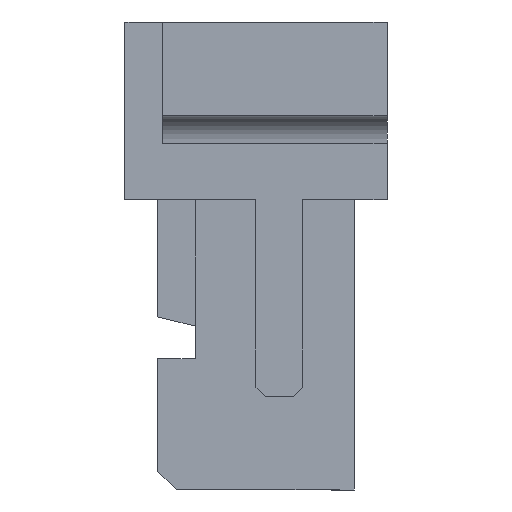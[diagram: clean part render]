
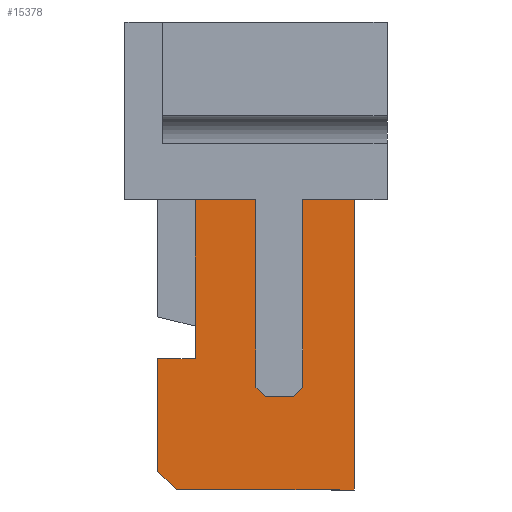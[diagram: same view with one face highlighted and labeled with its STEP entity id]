
A CAD part, left-side view. The second image highlights one B-rep face of the part: STEP entity #15378.
In plain terms, the highlighted planar face has unit normal (-1, 0, 0).
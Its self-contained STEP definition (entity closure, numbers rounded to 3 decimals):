
#308=CARTESIAN_POINT('Vertex',(-8.2,2.45,0.2)) ;
#324=CARTESIAN_POINT('Vertex',(-8.2,2.25,0.)) ;
#327=CARTESIAN_POINT('Line Origine',(-8.2,2.35,0.1)) ;
#562=CARTESIAN_POINT('Vertex',(-8.2,0.35,3.1)) ;
#597=CARTESIAN_POINT('Vertex',(-8.2,0.9,3.1)) ;
#600=CARTESIAN_POINT('Line Origine',(-8.2,0.625,3.1)) ;
#3274=CARTESIAN_POINT('Line Origine',(-8.2,0.9,2.1)) ;
#3278=CARTESIAN_POINT('Vertex',(-8.2,0.9,1.1)) ;
#7178=CARTESIAN_POINT('Line Origine',(-8.2,0.95,1.05)) ;
#7182=CARTESIAN_POINT('Vertex',(-8.2,1.,1.)) ;
#7204=CARTESIAN_POINT('Axis2P3D Location',(-8.2,2.8,1.)) ;
#7215=CARTESIAN_POINT('Vertex',(-8.2,2.05,3.1)) ;
#8029=CARTESIAN_POINT('Line Origine',(-8.2,1.15,1.)) ;
#8033=CARTESIAN_POINT('Vertex',(-8.2,1.3,1.)) ;
#8055=CARTESIAN_POINT('Line Origine',(-8.2,1.35,1.05)) ;
#8059=CARTESIAN_POINT('Vertex',(-8.2,1.4,1.1)) ;
#8081=CARTESIAN_POINT('Line Origine',(-8.2,1.4,2.1)) ;
#8085=CARTESIAN_POINT('Vertex',(-8.2,1.4,3.1)) ;
#10506=CARTESIAN_POINT('Vertex',(-8.2,2.05,1.4)) ;
#10511=CARTESIAN_POINT('Line Origine',(-8.2,2.05,1.575)) ;
#10515=CARTESIAN_POINT('Vertex',(-8.2,2.05,1.75)) ;
#10518=CARTESIAN_POINT('Line Origine',(-8.2,2.05,2.425)) ;
#12514=CARTESIAN_POINT('Line Origine',(-8.2,1.725,3.1)) ;
#15338=CARTESIAN_POINT('Line Origine',(-8.2,2.25,1.4)) ;
#15342=CARTESIAN_POINT('Vertex',(-8.2,2.45,1.4)) ;
#15345=CARTESIAN_POINT('Line Origine',(-8.2,2.45,0.8)) ;
#15350=CARTESIAN_POINT('Line Origine',(-8.2,1.3,0.)) ;
#15354=CARTESIAN_POINT('Vertex',(-8.2,0.35,0.)) ;
#15357=CARTESIAN_POINT('Line Origine',(-8.2,0.35,1.55)) ;
#328=DIRECTION('Vector Direction',(0.,0.707,0.707)) ;
#601=DIRECTION('Vector Direction',(0.,1.,0.)) ;
#3275=DIRECTION('Vector Direction',(0.,0.,-1.)) ;
#7179=DIRECTION('Vector Direction',(0.,0.707,-0.707)) ;
#7205=DIRECTION('Axis2P3D Direction',(-1.,0.,0.)) ;
#7206=DIRECTION('Axis2P3D XDirection',(-0.,0.,-1.)) ;
#8030=DIRECTION('Vector Direction',(0.,1.,0.)) ;
#8056=DIRECTION('Vector Direction',(0.,0.707,0.707)) ;
#8082=DIRECTION('Vector Direction',(0.,0.,1.)) ;
#10512=DIRECTION('Vector Direction',(0.,0.,1.)) ;
#10519=DIRECTION('Vector Direction',(0.,0.,-1.)) ;
#12515=DIRECTION('Vector Direction',(0.,1.,0.)) ;
#15339=DIRECTION('Vector Direction',(0.,-1.,0.)) ;
#15346=DIRECTION('Vector Direction',(0.,0.,1.)) ;
#15351=DIRECTION('Vector Direction',(0.,-1.,0.)) ;
#15358=DIRECTION('Vector Direction',(0.,0.,-1.)) ;
#7207=AXIS2_PLACEMENT_3D('Plane Axis2P3D',#7204,#7205,#7206) ;
#15363=ORIENTED_EDGE('',*,*,#10517,.F.) ;
#15364=ORIENTED_EDGE('',*,*,#15344,.F.) ;
#15365=ORIENTED_EDGE('',*,*,#15349,.F.) ;
#15366=ORIENTED_EDGE('',*,*,#331,.F.) ;
#15367=ORIENTED_EDGE('',*,*,#15356,.T.) ;
#15368=ORIENTED_EDGE('',*,*,#15361,.F.) ;
#15369=ORIENTED_EDGE('',*,*,#604,.F.) ;
#15370=ORIENTED_EDGE('',*,*,#3280,.F.) ;
#15371=ORIENTED_EDGE('',*,*,#7184,.F.) ;
#15372=ORIENTED_EDGE('',*,*,#8035,.F.) ;
#15373=ORIENTED_EDGE('',*,*,#8061,.F.) ;
#15374=ORIENTED_EDGE('',*,*,#8087,.F.) ;
#15375=ORIENTED_EDGE('',*,*,#12518,.F.) ;
#15376=ORIENTED_EDGE('',*,*,#10522,.T.) ;
#329=VECTOR('Line Direction',#328,1.) ;
#602=VECTOR('Line Direction',#601,1.) ;
#3276=VECTOR('Line Direction',#3275,1.) ;
#7180=VECTOR('Line Direction',#7179,1.) ;
#8031=VECTOR('Line Direction',#8030,1.) ;
#8057=VECTOR('Line Direction',#8056,1.) ;
#8083=VECTOR('Line Direction',#8082,1.) ;
#10513=VECTOR('Line Direction',#10512,1.) ;
#10520=VECTOR('Line Direction',#10519,1.) ;
#12516=VECTOR('Line Direction',#12515,1.) ;
#15340=VECTOR('Line Direction',#15339,1.) ;
#15347=VECTOR('Line Direction',#15346,1.) ;
#15352=VECTOR('Line Direction',#15351,1.) ;
#15359=VECTOR('Line Direction',#15358,1.) ;
#15378=ADVANCED_FACE('\X2\96F64EF651E04F554F53\X0\',(#15377),#7208,.T.) ;
#331=EDGE_CURVE('',#325,#309,#330,.T.) ;
#604=EDGE_CURVE('',#598,#563,#603,.F.) ;
#3280=EDGE_CURVE('',#3279,#598,#3277,.F.) ;
#7184=EDGE_CURVE('',#7183,#3279,#7181,.F.) ;
#8035=EDGE_CURVE('',#8034,#7183,#8032,.F.) ;
#8061=EDGE_CURVE('',#8060,#8034,#8058,.F.) ;
#8087=EDGE_CURVE('',#8086,#8060,#8084,.F.) ;
#10517=EDGE_CURVE('',#10507,#10516,#10514,.T.) ;
#10522=EDGE_CURVE('',#7216,#10516,#10521,.T.) ;
#12518=EDGE_CURVE('',#7216,#8086,#12517,.F.) ;
#15344=EDGE_CURVE('',#15343,#10507,#15341,.T.) ;
#15349=EDGE_CURVE('',#309,#15343,#15348,.T.) ;
#15356=EDGE_CURVE('',#325,#15355,#15353,.T.) ;
#15361=EDGE_CURVE('',#563,#15355,#15360,.T.) ;
#15362=EDGE_LOOP('',(#15363,#15364,#15365,#15366,#15367,#15368,#15369,#15370,#15371,#15372,#15373,#15374,#15375,#15376)) ;
#15377=FACE_OUTER_BOUND('',#15362,.T.) ;
#330=LINE('Line',#327,#329) ;
#603=LINE('Line',#600,#602) ;
#3277=LINE('Line',#3274,#3276) ;
#7181=LINE('Line',#7178,#7180) ;
#8032=LINE('Line',#8029,#8031) ;
#8058=LINE('Line',#8055,#8057) ;
#8084=LINE('Line',#8081,#8083) ;
#10514=LINE('Line',#10511,#10513) ;
#10521=LINE('Line',#10518,#10520) ;
#12517=LINE('Line',#12514,#12516) ;
#15341=LINE('Line',#15338,#15340) ;
#15348=LINE('Line',#15345,#15347) ;
#15353=LINE('Line',#15350,#15352) ;
#15360=LINE('Line',#15357,#15359) ;
#7208=PLANE('Plane',#7207) ;
#309=VERTEX_POINT('',#308) ;
#325=VERTEX_POINT('',#324) ;
#563=VERTEX_POINT('',#562) ;
#598=VERTEX_POINT('',#597) ;
#3279=VERTEX_POINT('',#3278) ;
#7183=VERTEX_POINT('',#7182) ;
#7216=VERTEX_POINT('',#7215) ;
#8034=VERTEX_POINT('',#8033) ;
#8060=VERTEX_POINT('',#8059) ;
#8086=VERTEX_POINT('',#8085) ;
#10507=VERTEX_POINT('',#10506) ;
#10516=VERTEX_POINT('',#10515) ;
#15343=VERTEX_POINT('',#15342) ;
#15355=VERTEX_POINT('',#15354) ;
